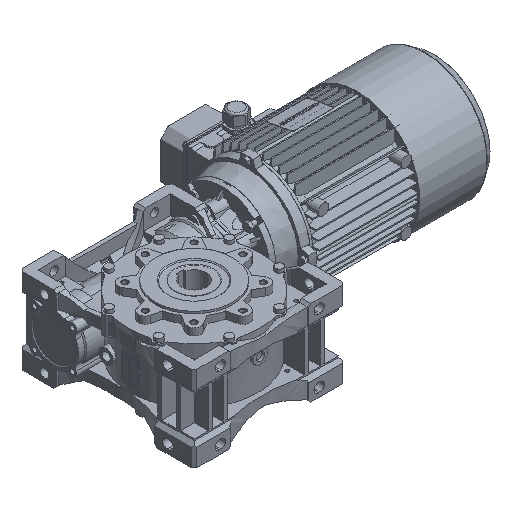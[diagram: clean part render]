
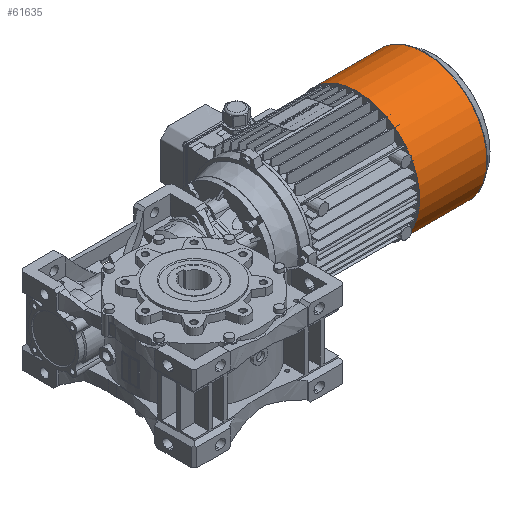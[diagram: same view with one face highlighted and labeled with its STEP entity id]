
A CAD part, isometric view. The second image highlights one B-rep face of the part: STEP entity #61635.
In plain terms, the highlighted cylindrical face has radius 105.2 mm (diameter 210.4 mm), a full revolution.
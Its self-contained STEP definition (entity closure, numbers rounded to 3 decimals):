
#5851=CIRCLE('',#68287,105.2);
#5852=CIRCLE('',#68289,105.2);
#23737=ORIENTED_EDGE('',*,*,#32759,.F.);
#23738=ORIENTED_EDGE('',*,*,#32758,.T.);
#32758=EDGE_CURVE('',#38791,#38791,#5851,.T.);
#32759=EDGE_CURVE('',#38792,#38792,#5852,.T.);
#38791=VERTEX_POINT('',#106910);
#38792=VERTEX_POINT('',#106913);
#53054=EDGE_LOOP('',(#23737));
#53055=EDGE_LOOP('',(#23738));
#56884=FACE_BOUND('',#53054,.T.);
#56885=FACE_BOUND('',#53055,.T.);
#58287=CYLINDRICAL_SURFACE('',#68288,105.2);
#61635=ADVANCED_FACE('',(#56884,#56885),#58287,.T.);
#68287=AXIS2_PLACEMENT_3D('',#106909,#86720,#86721);
#68288=AXIS2_PLACEMENT_3D('',#106911,#86722,#86723);
#68289=AXIS2_PLACEMENT_3D('',#106912,#86724,#86725);
#86720=DIRECTION('',(1.,0.,0.));
#86721=DIRECTION('',(0.,0.,-1.));
#86722=DIRECTION('',(1.,0.,0.));
#86723=DIRECTION('',(0.,0.,-1.));
#86724=DIRECTION('',(1.,0.,0.));
#86725=DIRECTION('',(0.,0.,-1.));
#106909=CARTESIAN_POINT('',(0.,0.,0.));
#106910=CARTESIAN_POINT('',(0.,0.,-105.2));
#106911=CARTESIAN_POINT('',(130.,0.,0.));
#106912=CARTESIAN_POINT('',(113.374,0.,0.));
#106913=CARTESIAN_POINT('',(113.374,0.,-105.2));
